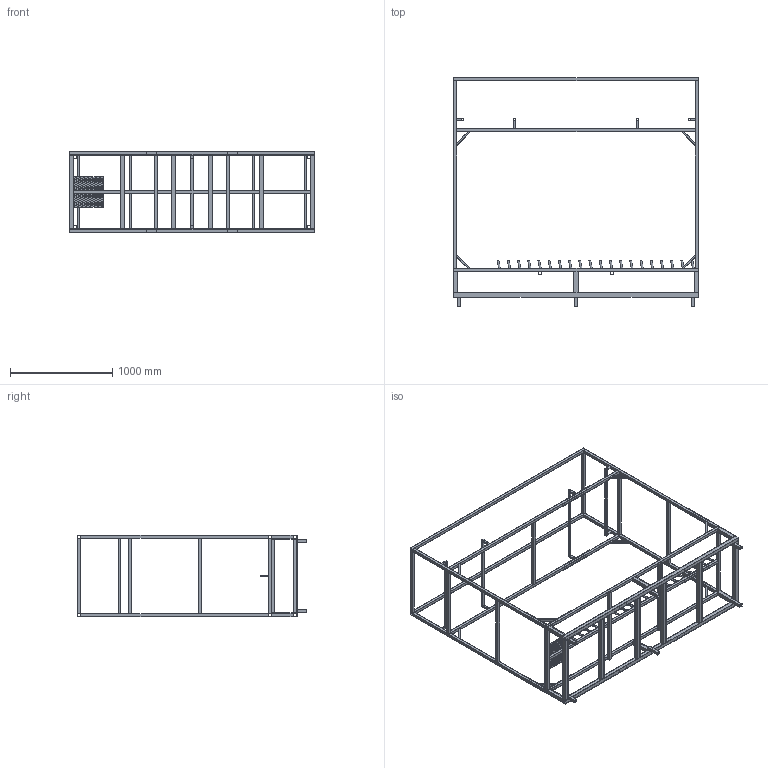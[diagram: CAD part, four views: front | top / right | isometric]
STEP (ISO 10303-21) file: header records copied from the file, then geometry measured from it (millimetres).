
FILE_DESCRIPTION (( 'STEP AP203' ), '1' );
FILE_NAME ('Rack Br GX081 V4.STEP', '2023-07-07T07:28:21', ( '' ), ( '' ), 'SwSTEP 2.0', 'SolidWorks 2023', '' );
FILE_SCHEMA (( 'CONFIG_CONTROL_DESIGN' ));
Length unit declared in the file: millimetre
Products named in the file (1): Rack Br GX081 V4
Bounding box: 2400 x 2240 x 800 mm (x, y, z)
Volume: 14349564.2 mm3; surface area: 11527017.5 mm2
Topology: 83 solids, 83 shells, 1144 faces, 2934 edges, 1956 vertices
Faces by surface type: plane 674, cylinder 470
Entity records: 35899 total; most frequent: DIRECTION 6164, CARTESIAN_POINT 6035, ORIENTED_EDGE 5868, EDGE_CURVE 2934, AXIS2_PLACEMENT_3D 2085, VECTOR 1994, LINE 1994, VERTEX_POINT 1956
